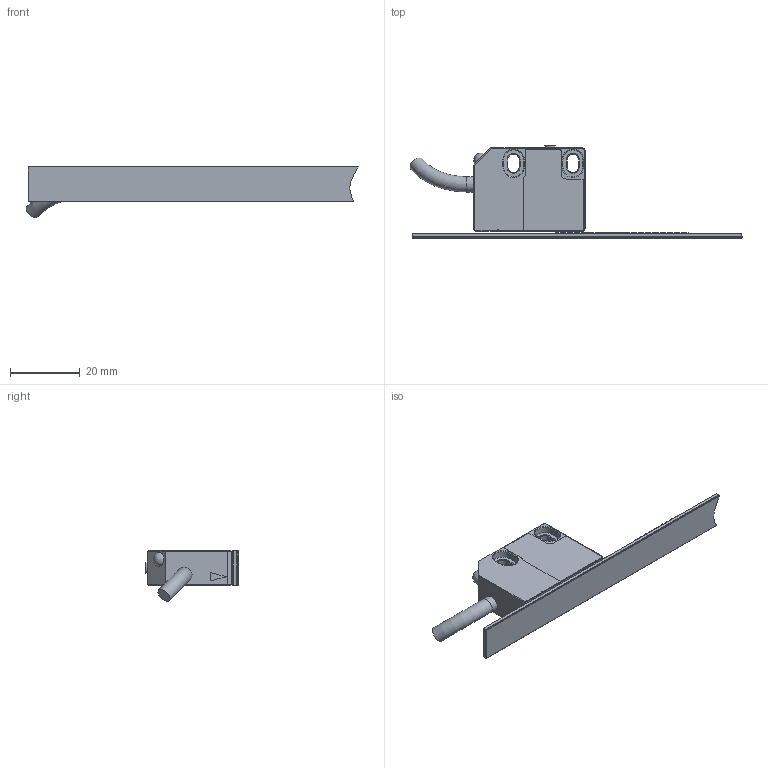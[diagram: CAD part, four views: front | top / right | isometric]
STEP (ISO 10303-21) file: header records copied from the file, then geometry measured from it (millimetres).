
FILE_DESCRIPTION(/* description */ ('STEP AP203','CAx-IF Rec.Pracs.---Representation and Presentation of Product Manufacturing Information (PMI)---4.0---2014-10-13'),/* implementation_level */ '2;1');
FILE_NAME(/* name */ 'C:\DESKTOP\홈페이지용 엔코더 3D 데이타 및 사진관련 자료\Linear Encoder\LE128-1000-2-V-L-5\LE128-1000-2-V-L-5.stp',/* time_stamp */ '2023-06-05T23:42:01+08:00',/* author */ ('hnckhn'),/* organization */ ('RLS D.O.O.'),/* preprocessor_version */ 'ST-DEVELOPER v18.1',/* originating_system */ 'Autodesk Inventor 2021',/* authorisation */ '');
FILE_SCHEMA (('AP242_MANAGED_MODEL_BASED_3D_ENGINEERING_MIM_LF { 1 0 10303 442 1 1 4 }'));
Length unit declared in the file: millimetre
Products named in the file (3): LE128-1000-2-V-L-5; magnetic-tape-MS10; LM10-reading-head
Assembly tree (2 placements, depth 2):
  LE128-1000-2-V-L-5
    magnetic-tape-MS10
    LM10-reading-head
Bounding box: 95.09 x 26.4 x 14.57 mm (x, y, z)
Volume: 8687.8 mm3; surface area: 5894 mm2
Topology: 17 solids, 18 shells, 248 faces, 616 edges, 473 vertices
Faces by surface type: plane 191, cylinder 29, cone 24, bspline 2, torus 1, sphere 1
Full cylindrical faces by diameter (mm): 3 x1, 4 x1, 4.4 x1
Entity records: 7754 total; most frequent: CARTESIAN_POINT 1588, DIRECTION 1195, ORIENTED_EDGE 1110, EDGE_CURVE 555, LINE 453, VECTOR 453, AXIS2_PLACEMENT_3D 371, VERTEX_POINT 354
